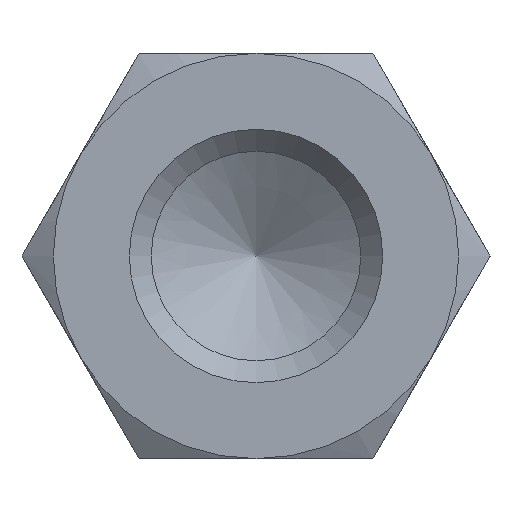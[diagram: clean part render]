
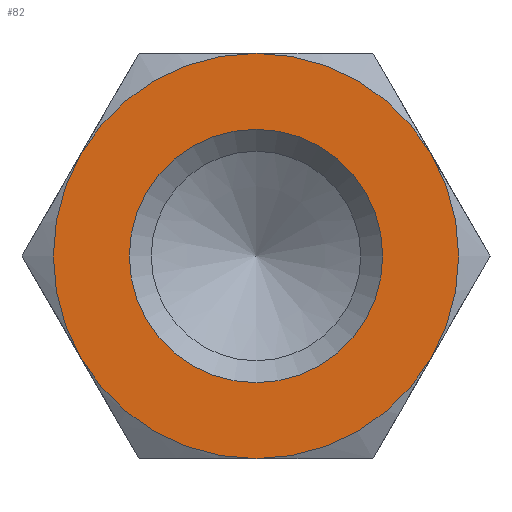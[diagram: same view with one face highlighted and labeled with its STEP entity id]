
A CAD part, left-side view. The second image highlights one B-rep face of the part: STEP entity #82.
In plain terms, the highlighted planar face has unit normal (-1, 0, 0).
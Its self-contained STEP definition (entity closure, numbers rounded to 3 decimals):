
#82 = ADVANCED_FACE( '', ( #119, #120 ), #121, .F. );
#119 = FACE_OUTER_BOUND( '', #179, .T. );
#120 = FACE_BOUND( '', #180, .T. );
#121 = PLANE( '', #181 );
#179 = EDGE_LOOP( '', ( #264, #265, #266, #267, #268, #269 ) );
#180 = EDGE_LOOP( '', ( #270 ) );
#181 = AXIS2_PLACEMENT_3D( '', #271, #272, #273 );
#264 = ORIENTED_EDGE( '', *, *, #416, .F. );
#265 = ORIENTED_EDGE( '', *, *, #417, .F. );
#266 = ORIENTED_EDGE( '', *, *, #418, .F. );
#267 = ORIENTED_EDGE( '', *, *, #409, .F. );
#268 = ORIENTED_EDGE( '', *, *, #405, .F. );
#269 = ORIENTED_EDGE( '', *, *, #406, .F. );
#270 = ORIENTED_EDGE( '', *, *, #419, .T. );
#271 = CARTESIAN_POINT( '', ( 0., 0., 0. ) );
#272 = DIRECTION( '', ( 1., 0., 0. ) );
#273 = DIRECTION( '', ( 0., 0., -1. ) );
#405 = EDGE_CURVE( '', #457, #454, #459, .T. );
#406 = EDGE_CURVE( '', #460, #457, #461, .T. );
#409 = EDGE_CURVE( '', #454, #465, #466, .T. );
#416 = EDGE_CURVE( '', #477, #460, #478, .T. );
#417 = EDGE_CURVE( '', #479, #477, #480, .T. );
#418 = EDGE_CURVE( '', #465, #479, #481, .T. );
#419 = EDGE_CURVE( '', #482, #482, #483, .T. );
#454 = VERTEX_POINT( '', #532 );
#457 = VERTEX_POINT( '', #540 );
#459 = CIRCLE( '', #547, 4. );
#460 = VERTEX_POINT( '', #548 );
#461 = CIRCLE( '', #549, 4. );
#465 = VERTEX_POINT( '', #561 );
#466 = CIRCLE( '', #562, 4. );
#477 = VERTEX_POINT( '', #593 );
#478 = CIRCLE( '', #594, 4. );
#479 = VERTEX_POINT( '', #595 );
#480 = CIRCLE( '', #596, 4. );
#481 = CIRCLE( '', #597, 4. );
#482 = VERTEX_POINT( '', #598 );
#483 = CIRCLE( '', #599, 2.5 );
#532 = CARTESIAN_POINT( '', ( 0., -3.464, 2. ) );
#540 = CARTESIAN_POINT( '', ( 0., 0., 4. ) );
#547 = AXIS2_PLACEMENT_3D( '', #723, #724, #725 );
#548 = CARTESIAN_POINT( '', ( 0., 3.464, 2. ) );
#549 = AXIS2_PLACEMENT_3D( '', #726, #727, #728 );
#561 = CARTESIAN_POINT( '', ( 0., -3.464, -2. ) );
#562 = AXIS2_PLACEMENT_3D( '', #729, #730, #731 );
#593 = CARTESIAN_POINT( '', ( 0., 3.464, -2. ) );
#594 = AXIS2_PLACEMENT_3D( '', #734, #735, #736 );
#595 = CARTESIAN_POINT( '', ( 0., 0., -4. ) );
#596 = AXIS2_PLACEMENT_3D( '', #737, #738, #739 );
#597 = AXIS2_PLACEMENT_3D( '', #740, #741, #742 );
#598 = CARTESIAN_POINT( '', ( 0., 0., -2.5 ) );
#599 = AXIS2_PLACEMENT_3D( '', #743, #744, #745 );
#723 = CARTESIAN_POINT( '', ( 0., 0., 0. ) );
#724 = DIRECTION( '', ( 1., 0., 0. ) );
#725 = DIRECTION( '', ( 0., 0., -1. ) );
#726 = CARTESIAN_POINT( '', ( 0., 0., 0. ) );
#727 = DIRECTION( '', ( 1., 0., 0. ) );
#728 = DIRECTION( '', ( 0., 0., -1. ) );
#729 = CARTESIAN_POINT( '', ( 0., 0., 0. ) );
#730 = DIRECTION( '', ( 1., 0., 0. ) );
#731 = DIRECTION( '', ( 0., 0., -1. ) );
#734 = CARTESIAN_POINT( '', ( 0., 0., 0. ) );
#735 = DIRECTION( '', ( 1., 0., 0. ) );
#736 = DIRECTION( '', ( 0., 0., -1. ) );
#737 = CARTESIAN_POINT( '', ( 0., 0., 0. ) );
#738 = DIRECTION( '', ( 1., 0., 0. ) );
#739 = DIRECTION( '', ( 0., 0., -1. ) );
#740 = CARTESIAN_POINT( '', ( 0., 0., 0. ) );
#741 = DIRECTION( '', ( 1., 0., 0. ) );
#742 = DIRECTION( '', ( 0., 0., -1. ) );
#743 = CARTESIAN_POINT( '', ( 0., 0., 0. ) );
#744 = DIRECTION( '', ( 1., 0., 0. ) );
#745 = DIRECTION( '', ( 0., 0., -1. ) );
